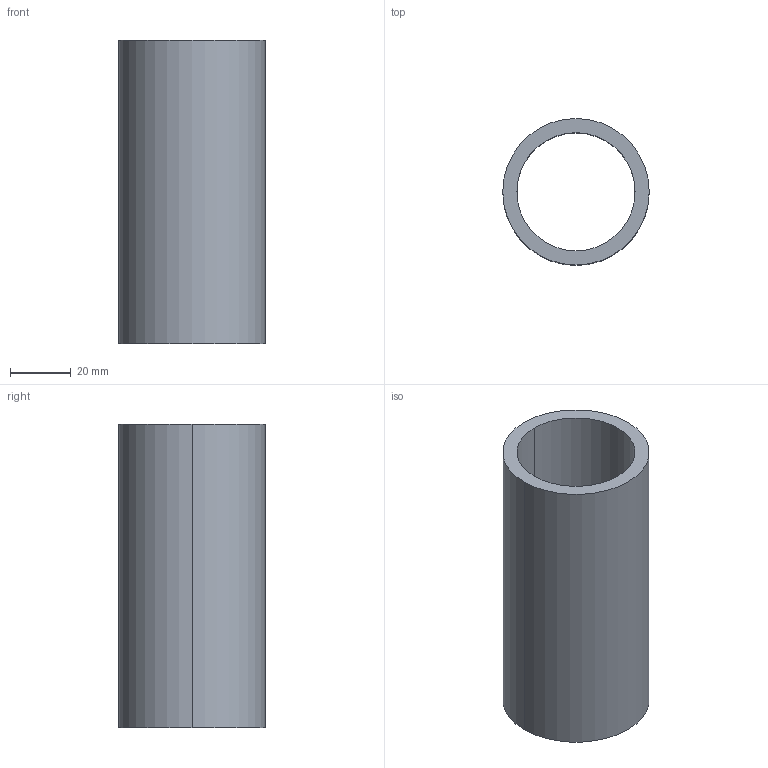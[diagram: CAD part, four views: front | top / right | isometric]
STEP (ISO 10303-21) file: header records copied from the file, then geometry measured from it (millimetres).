
FILE_DESCRIPTION (( 'STEP AP203' ), '1' );
FILE_NAME ('19-0408-27_outokumpu.step', '2015-08-11T09:42:12', ( '' ), ( '' ), 'SwSTEP 2.0', 'SolidWorks 2008', '' );
FILE_SCHEMA (( 'CONFIG_CONTROL_DESIGN' ));
Length unit declared in the file: millimetre
Products named in the file (1): 19-0408-27_outokumpu
Bounding box: 48.3 x 48.3 x 100 mm (x, y, z)
Volume: 60000.8 mm3; surface area: 28739.4 mm2
Topology: 1 solids, 1 shells, 12 faces, 26 edges, 16 vertices
Faces by surface type: cylinder 6, cone 4, plane 2
Entity records: 415 total; most frequent: DIRECTION 68, CARTESIAN_POINT 55, ORIENTED_EDGE 52, AXIS2_PLACEMENT_3D 29, EDGE_CURVE 26, CIRCLE 16, VERTEX_POINT 16, EDGE_LOOP 14
